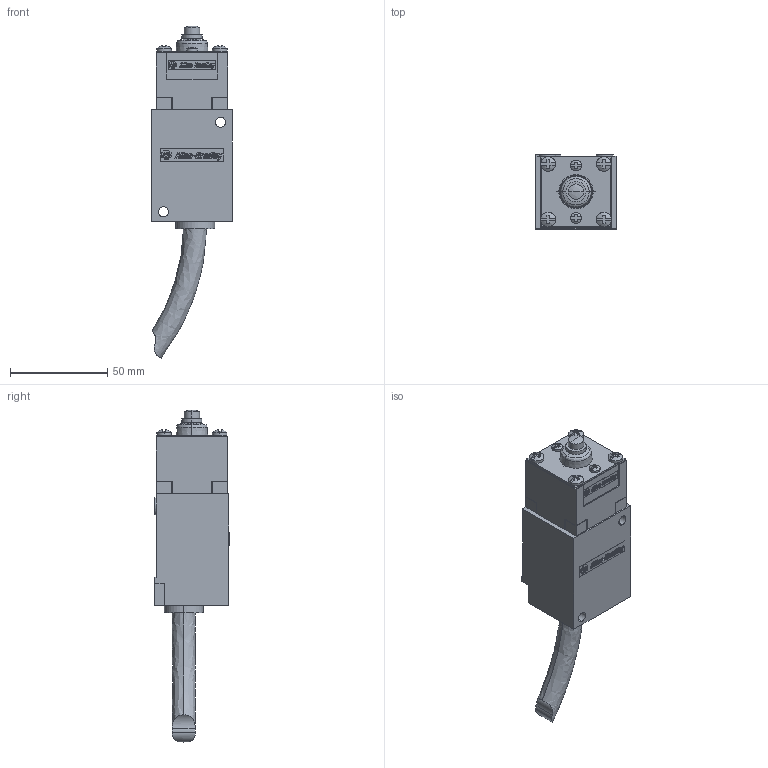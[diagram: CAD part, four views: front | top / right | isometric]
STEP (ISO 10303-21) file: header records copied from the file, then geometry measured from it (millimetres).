
FILE_DESCRIPTION (( 'STEP AP214' ), '1' );
FILE_NAME ('802M-BY5.STEP', '2009-07-25T02:10:42', ( 'me' ), ( '' ), 'SwSTEP 2.0', 'SolidWorks 2007', '' );
FILE_SCHEMA (( 'AUTOMOTIVE_DESIGN' ));
Length unit declared in the file: millimetre
Products named in the file (3): 802M-BY5; 802M-BX; 802M-XY5
Assembly tree (2 placements, depth 2):
  802M-BY5
    802M-BX
    802M-XY5
Bounding box: 41.27 x 38.23 x 170.65 mm (x, y, z)
Volume: 131181 mm3; surface area: 29385.9 mm2
Topology: 41 solids, 41 shells, 1295 faces, 3499 edges, 2316 vertices
Faces by surface type: plane 1192, cylinder 71, bspline 26, cone 6
Entity records: 55611 total; most frequent: CARTESIAN_POINT 8215, ORIENTED_EDGE 6998, DIRECTION 6182, EDGE_CURVE 3499, VECTOR 3218, LINE 3218, VERTEX_POINT 2316, AXIS2_PLACEMENT_3D 1482
